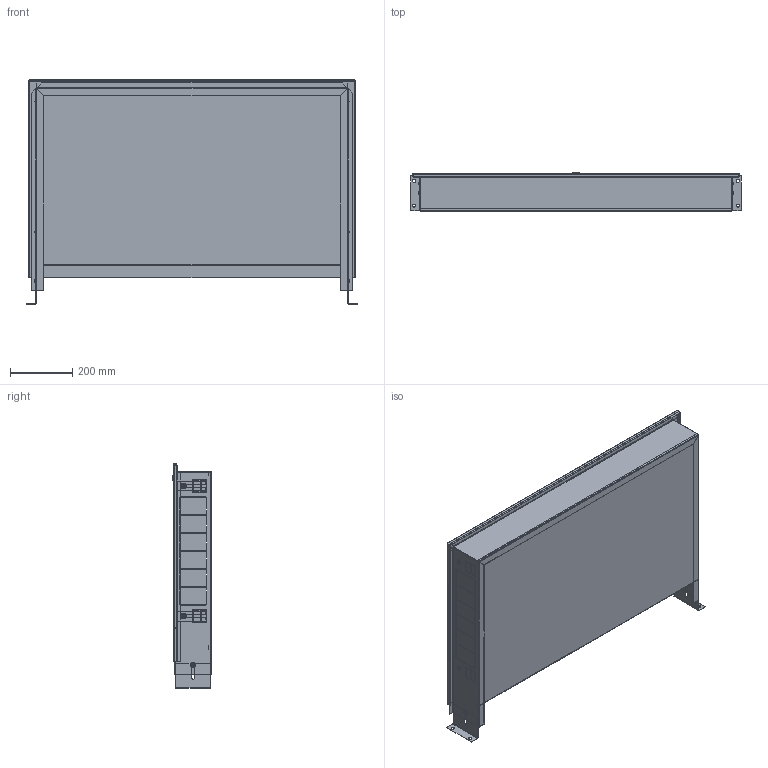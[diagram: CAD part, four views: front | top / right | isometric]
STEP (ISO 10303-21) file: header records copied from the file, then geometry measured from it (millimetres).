
FILE_DESCRIPTION(('TFLEX Exchange Step'),'2;1');
FILE_NAME('Manifold cabinet VTc.540.0.05 Valtec.stp', '2023-10-11T14:42:15+03:00',('denis'),('Unknown organisation'),'TFLEX Exchange 2023.0','T-FLEX CAD','Unknown authorisation');
FILE_SCHEMA( ('AUTOMOTIVE_DESIGN { 1 0 10303 214 1 1 1 1 }') );
Length unit declared in the file: millimetre
Products named in the file (1): Nodes
Bounding box: 1060 x 124.1 x 719 mm (x, y, z)
Volume: 1478795.7 mm3; surface area: 3586039.2 mm2
Topology: 14 solids, 15 shells, 784 faces, 2075 edges, 1345 vertices
Faces by surface type: plane 592, cylinder 127, cone 43, bspline 12, torus 6, sphere 4
Full cylindrical faces by diameter (mm): 6 x12, 6.4 x6, 7 x2, 10 x5, 12 x1, 14 x4, 16 x1, 18 x6, 20 x2
Entity records: 27234 total; most frequent: CARTESIAN_POINT 7580, ORIENTED_EDGE 4142, DIRECTION 3793, EDGE_CURVE 2071, VECTOR 1535, LINE 1535, VERTEX_POINT 1345, AXIS2_PLACEMENT_3D 1129
